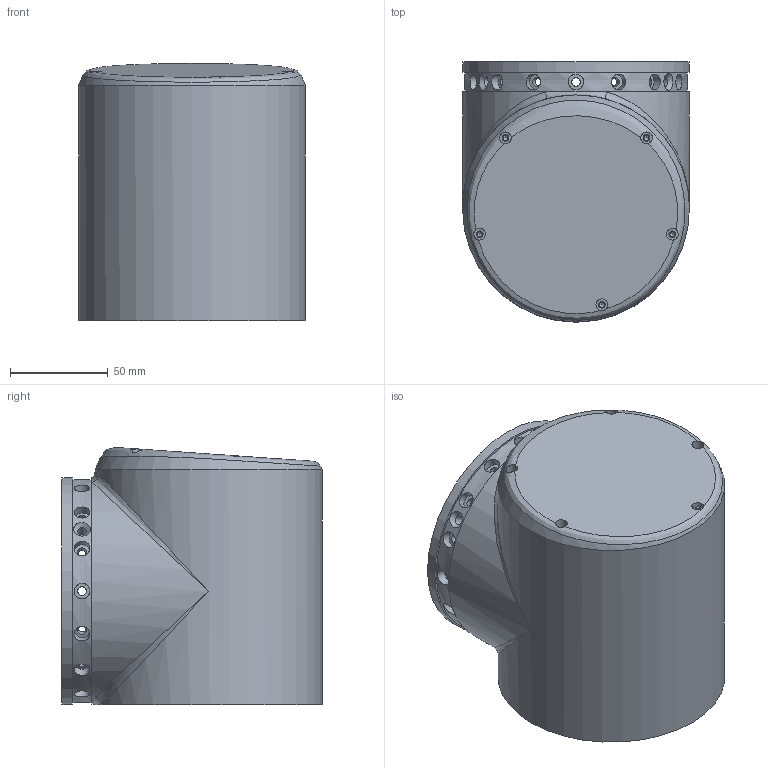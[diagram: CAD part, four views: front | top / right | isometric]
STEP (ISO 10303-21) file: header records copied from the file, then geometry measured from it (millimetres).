
FILE_DESCRIPTION (( 'STEP AP214' ), '1' );
FILE_NAME ('110樑粣.STEP', '2026-05-21T03:51:21', ( 'Windows User' ), ( 'P R C' ), 'SwSTEP 2.0', 'SolidWorks 2021', '' );
FILE_SCHEMA (( 'AUTOMOTIVE_DESIGN' ));
Length unit declared in the file: millimetre
Products named in the file (1): 110樑粣
Bounding box: 116 x 133 x 131.46 mm (x, y, z)
Volume: 796734.1 mm3; surface area: 172062.7 mm2
Topology: 2 solids, 2 shells, 612 faces, 1512 edges, 871 vertices
Faces by surface type: cylinder 305, plane 138, sphere 66, torus 41, bspline 36, cone 26
Full cylindrical faces by diameter (mm): 2.5 x5, 3.2 x4, 3.3 x12, 3.5 x5, 4.5 x18, 6 x5, 6.5 x4, 8 x15, 18 x1, 40 x1, 69 x1, 86 x1, 90 x1, 94 x1, 98 x1, 98.5 x1, 107.7 x1, 110 x1, 110.9 x2, 111 x1, 114 x1, 116 x2
Entity records: 36648 total; most frequent: CARTESIAN_POINT 16570, DIRECTION 2888, ORIENTED_EDGE 2570, EDGE_CURVE 1285, AXIS2_PLACEMENT_3D 1229, VERTEX_POINT 831, EDGE_LOOP 814, FACE_OUTER_BOUND 697
